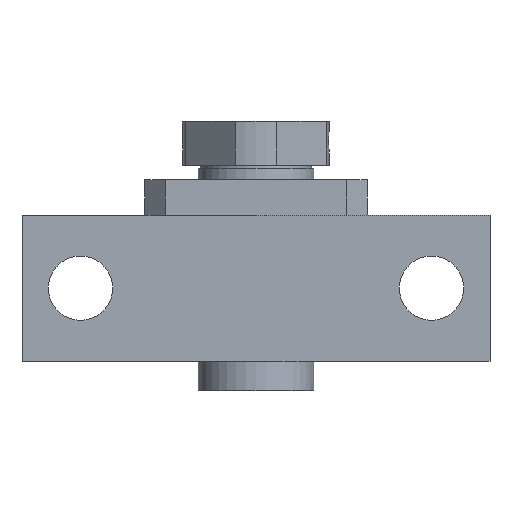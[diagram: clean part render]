
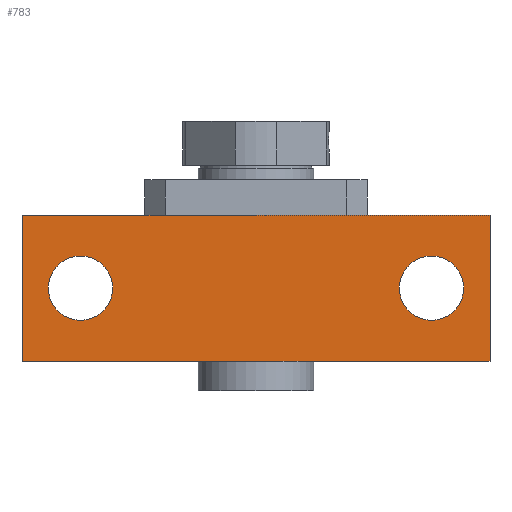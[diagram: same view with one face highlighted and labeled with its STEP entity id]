
A CAD part, front view. The second image highlights one B-rep face of the part: STEP entity #783.
In plain terms, the highlighted planar face has unit normal (0, -1, 0).
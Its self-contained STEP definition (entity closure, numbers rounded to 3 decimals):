
#33=LINE($,#1292,#103);
#74=LINE($,#1402,#144);
#81=LINE($,#1415,#151);
#82=LINE($,#1417,#152);
#103=VECTOR($,#926,80.);
#144=VECTOR($,#1045,25.);
#151=VECTOR($,#1058,25.);
#152=VECTOR($,#1061,80.);
#240=FACE_BOUND($,#309,.T.);
#241=FACE_BOUND($,#310,.T.);
#242=FACE_BOUND($,#311,.T.);
#309=EDGE_LOOP($,(#687));
#310=EDGE_LOOP($,(#688));
#311=EDGE_LOOP($,(#689,#690,#691,#692));
#333=CIRCLE($,#845,5.5);
#335=CIRCLE($,#848,5.5);
#376=VERTEX_POINT($,#1289);
#377=VERTEX_POINT($,#1291);
#403=VERTEX_POINT($,#1391);
#405=VERTEX_POINT($,#1396);
#407=VERTEX_POINT($,#1401);
#410=VERTEX_POINT($,#1413);
#452=EDGE_CURVE($,#377,#376,#33,.T.);
#498=EDGE_CURVE($,#403,#403,#333,.T.);
#500=EDGE_CURVE($,#405,#405,#335,.T.);
#502=EDGE_CURVE($,#377,#407,#74,.T.);
#509=EDGE_CURVE($,#376,#410,#81,.T.);
#510=EDGE_CURVE($,#407,#410,#82,.T.);
#687=ORIENTED_EDGE($,*,*,#498,.T.);
#688=ORIENTED_EDGE($,*,*,#500,.T.);
#689=ORIENTED_EDGE($,*,*,#452,.T.);
#690=ORIENTED_EDGE($,*,*,#509,.T.);
#691=ORIENTED_EDGE($,*,*,#510,.F.);
#692=ORIENTED_EDGE($,*,*,#502,.F.);
#739=PLANE($,#854);
#783=ADVANCED_FACE($,(#240,#241,#242),#739,.T.);
#845=AXIS2_PLACEMENT_3D($,#1392,#1033,#1034);
#848=AXIS2_PLACEMENT_3D($,#1397,#1039,#1040);
#854=AXIS2_PLACEMENT_3D($,#1416,#1059,#1060);
#926=DIRECTION($,(1.,0.,0.));
#1033=DIRECTION('center_axis',(0.,1.,0.));
#1034=DIRECTION('ref_axis',(1.,0.,0.));
#1039=DIRECTION('center_axis',(0.,1.,0.));
#1040=DIRECTION('ref_axis',(1.,0.,0.));
#1045=DIRECTION($,(0.,0.,1.));
#1058=DIRECTION($,(0.,0.,1.));
#1059=DIRECTION('center_axis',(0.,-1.,0.));
#1060=DIRECTION('ref_axis',(1.,0.,0.));
#1061=DIRECTION($,(1.,0.,0.));
#1289=CARTESIAN_POINT('',(80.,0.,0.));
#1291=CARTESIAN_POINT('',(0.,0.,0.));
#1292=CARTESIAN_POINT($,(0.,0.,0.));
#1391=CARTESIAN_POINT('',(4.5,0.,12.5));
#1392=CARTESIAN_POINT('Origin',(10.,0.,12.5));
#1396=CARTESIAN_POINT('',(64.5,0.,12.5));
#1397=CARTESIAN_POINT('Origin',(70.,0.,12.5));
#1401=CARTESIAN_POINT('',(0.,0.,25.));
#1402=CARTESIAN_POINT($,(0.,0.,0.));
#1413=CARTESIAN_POINT('',(80.,0.,25.));
#1415=CARTESIAN_POINT($,(80.,0.,0.));
#1416=CARTESIAN_POINT('Origin',(0.,0.,0.));
#1417=CARTESIAN_POINT($,(0.,0.,25.));
